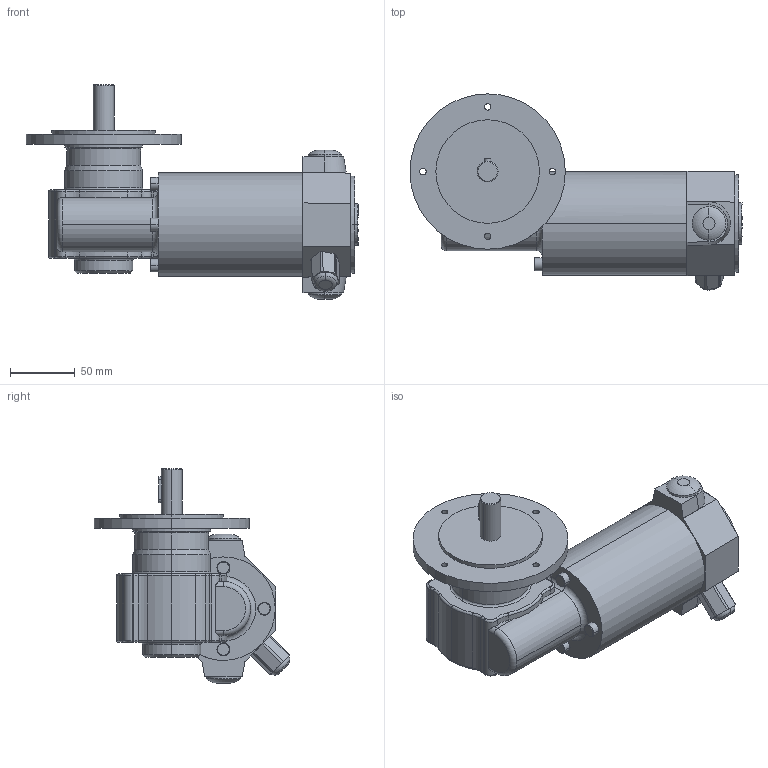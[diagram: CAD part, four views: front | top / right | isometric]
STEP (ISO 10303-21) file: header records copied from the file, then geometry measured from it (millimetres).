
FILE_DESCRIPTION(('OneSpaceDesigner STEP Export'),'2;1');
FILE_NAME('EPG12_GF140.stp','2008-07-15T10:02:41',(''),(''),'OneSpace Designer STEP processor (Jan. 2003) for AP214(CD)(Solid Model)','OneSpace Designer 12.01D 09-Jul-2004 (C) CoCreate Software GmbH','');
FILE_SCHEMA(('AUTOMOTIVE_DESIGN_CC2 {1 2 10303 214 -1 1 5 1}'));
Length unit declared in the file: millimetre
Products named in the file (2): EPG12_GF140
Assembly tree (1 placements, depth 2):
  EPG12_GF140
    EPG12_GF140
Bounding box: 256.5 x 151.39 x 165.5 mm (x, y, z)
Volume: 1418920.4 mm3; surface area: 111816.8 mm2
Topology: 1 solids, 1 shells, 219 faces, 521 edges, 320 vertices
Faces by surface type: cylinder 89, torus 68, plane 47, cone 12, bspline 3
Entity records: 9033 total; most frequent: CARTESIAN_POINT 4360, ORIENTED_EDGE 1042, DIRECTION 884, EDGE_CURVE 521, AXIS2_PLACEMENT_3D 358, VERTEX_POINT 320, EDGE_LOOP 243, FACE_OUTER_BOUND 219
